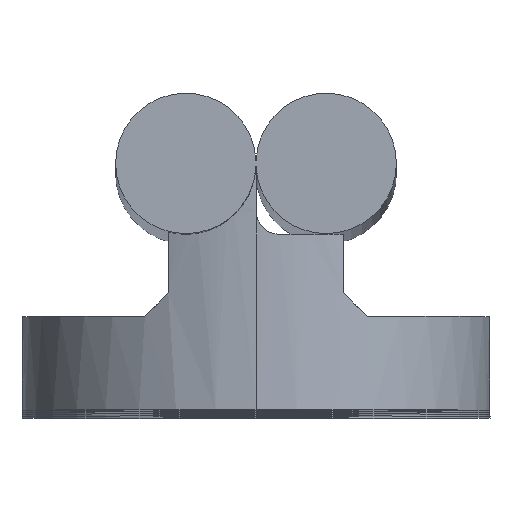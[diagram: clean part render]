
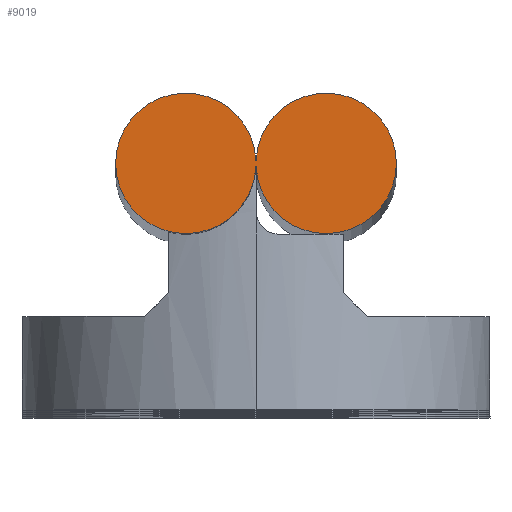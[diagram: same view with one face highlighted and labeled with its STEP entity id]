
A CAD part, top view. The second image highlights one B-rep face of the part: STEP entity #9019.
In plain terms, the highlighted planar face has unit normal (0, 0, 1).
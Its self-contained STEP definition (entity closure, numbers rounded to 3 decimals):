
#135 = CARTESIAN_POINT ( 'NONE',  ( 0.005, 20.75, 0. ) ) ;
#136 = DIRECTION ( 'NONE',  ( 1., 0., 0. ) ) ;
#137 = DIRECTION ( 'NONE',  ( 0., 0., 1. ) ) ;
#138 = CARTESIAN_POINT ( 'NONE',  ( 6., 21., 0. ) ) ;
#139 = AXIS2_PLACEMENT_3D ( 'NONE', #138, #137, #136 ) ;
#140 = CIRCLE ( 'NONE', #139, 6. ) ;
#141 = CARTESIAN_POINT ( 'NONE',  ( 12., 21., 0. ) ) ;
#1700 = DIRECTION ( 'NONE',  ( 1., 0., 0. ) ) ;
#1701 = VECTOR ( 'NONE', #1700, 1000. ) ;
#1702 = CARTESIAN_POINT ( 'NONE',  ( -0.005, 20.75, 0. ) ) ;
#1703 = LINE ( 'NONE', #1702, #1701 ) ;
#1724 = CARTESIAN_POINT ( 'NONE',  ( -0.005, 21.25, 0. ) ) ;
#1725 = DIRECTION ( 'NONE',  ( -1., 0., 0. ) ) ;
#1726 = DIRECTION ( 'NONE',  ( 0., 0., 1. ) ) ;
#1727 = CARTESIAN_POINT ( 'NONE',  ( -6., 21., 0. ) ) ;
#1728 = AXIS2_PLACEMENT_3D ( 'NONE', #1727, #1726, #1725 ) ;
#1749 = CARTESIAN_POINT ( 'NONE',  ( -0.005, 20.75, 0. ) ) ;
#1750 = CIRCLE ( 'NONE', #1728, 6. ) ;
#1808 = DIRECTION ( 'NONE',  ( 1., 0., 0. ) ) ;
#1809 = DIRECTION ( 'NONE',  ( 0., 0., 1. ) ) ;
#1810 = CARTESIAN_POINT ( 'NONE',  ( 6., 21., 0. ) ) ;
#1811 = AXIS2_PLACEMENT_3D ( 'NONE', #1810, #1809, #1808 ) ;
#1812 = CIRCLE ( 'NONE', #1811, 6. ) ;
#1814 = CARTESIAN_POINT ( 'NONE',  ( 0.005, 21.25, 0. ) ) ;
#1841 = DIRECTION ( 'NONE',  ( -1., 0., 0. ) ) ;
#1842 = VECTOR ( 'NONE', #1841, 1000. ) ;
#1843 = CARTESIAN_POINT ( 'NONE',  ( -0.005, 21.25, 0. ) ) ;
#1844 = LINE ( 'NONE', #1843, #1842 ) ;
#1984 = FACE_OUTER_BOUND ( 'NONE', #8939, .T. ) ;
#2020 = DIRECTION ( 'NONE',  ( 1., 0., 0. ) ) ;
#2021 = DIRECTION ( 'NONE',  ( 0., 0., 1. ) ) ;
#2022 = CARTESIAN_POINT ( 'NONE',  ( 6., 21., 0. ) ) ;
#2023 = AXIS2_PLACEMENT_3D ( 'NONE', #2022, #2021, #2020 ) ;
#2024 = PLANE ( 'NONE',  #2023 ) ;
#8190 = VERTEX_POINT ( 'NONE', #141 ) ;
#8192 = EDGE_CURVE ( 'NONE', #8193, #8190, #140, .T. ) ;
#8193 = VERTEX_POINT ( 'NONE', #135 ) ;
#8888 = EDGE_CURVE ( 'NONE', #8893, #8193, #1703, .T. ) ;
#8893 = VERTEX_POINT ( 'NONE', #1749 ) ;
#8895 = EDGE_CURVE ( 'NONE', #8896, #8893, #1750, .T. ) ;
#8896 = VERTEX_POINT ( 'NONE', #1724 ) ;
#8939 = EDGE_LOOP ( 'NONE', ( #8998, #8999, #9000, #9001, #9002 ) ) ;
#8947 = VERTEX_POINT ( 'NONE', #1814 ) ;
#8949 = EDGE_CURVE ( 'NONE', #8190, #8947, #1812, .T. ) ;
#8953 = EDGE_CURVE ( 'NONE', #8947, #8896, #1844, .T. ) ;
#8998 = ORIENTED_EDGE ( 'NONE', *, *, #8192, .T. ) ;
#8999 = ORIENTED_EDGE ( 'NONE', *, *, #8949, .T. ) ;
#9000 = ORIENTED_EDGE ( 'NONE', *, *, #8953, .T. ) ;
#9001 = ORIENTED_EDGE ( 'NONE', *, *, #8895, .T. ) ;
#9002 = ORIENTED_EDGE ( 'NONE', *, *, #8888, .T. ) ;
#9019 = ADVANCED_FACE ( 'NONE', ( #1984 ), #2024, .T. ) ;
